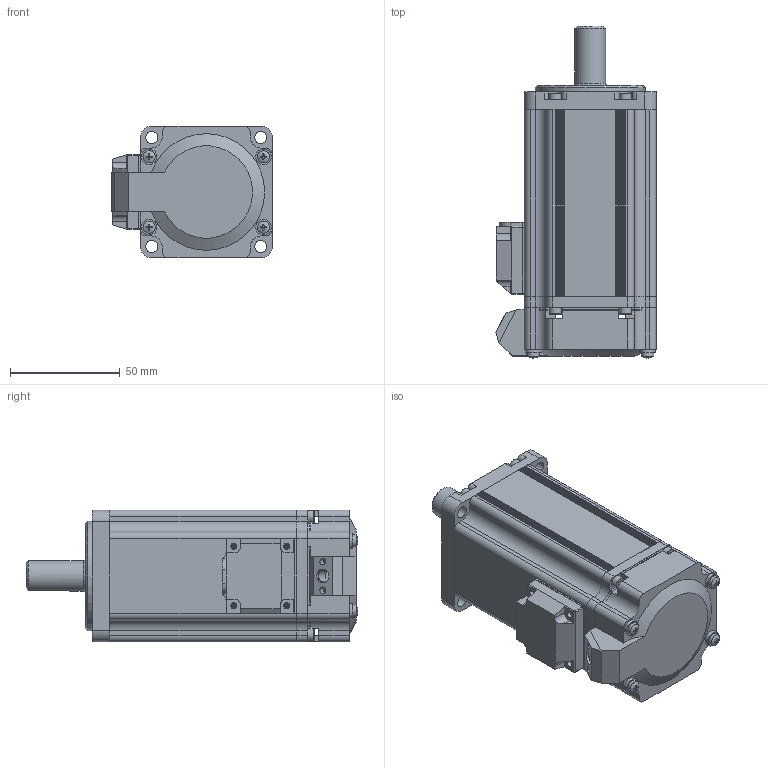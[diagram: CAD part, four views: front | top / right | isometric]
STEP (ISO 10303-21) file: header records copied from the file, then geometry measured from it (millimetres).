
FILE_DESCRIPTION (( 'STEP AP203' ), '1' );
FILE_NAME ('MS6H-60C30B1-20P4.STEP', '2021-10-20T09:53:00', ( '' ), ( '' ), 'SwSTEP 2.0', 'SolidWorks 2016', '' );
FILE_SCHEMA (( 'CONFIG_CONTROL_DESIGN' ));
Length unit declared in the file: millimetre
Products named in the file (1): MS6H-60C30B1-20P4
Bounding box: 73 x 150.89 x 60 mm (x, y, z)
Surface area: 46259.7 mm2 (no closed solid volume)
Topology: 0 solids, 30 shells, 437 faces, 1435 edges, 1023 vertices
Faces by surface type: plane 226, cylinder 189, torus 12, cone 5, sphere 4, bspline 1
Full cylindrical faces by diameter (mm): 2.8 x4, 3 x6, 4.2 x1, 5.5 x13, 5.6 x4, 6.2 x1, 6.3 x1, 7 x4, 14 x1, 14.8 x1, 15 x1, 24 x1, 50 x1
Entity records: 15980 total; most frequent: CARTESIAN_POINT 3380, DIRECTION 2771, ORIENTED_EDGE 2197, EDGE_CURVE 1356, AXIS2_PLACEMENT_3D 998, VERTEX_POINT 997, LINE 775, VECTOR 775
